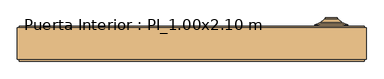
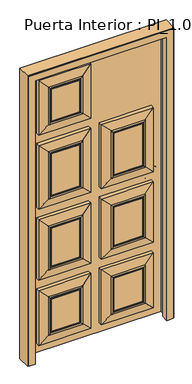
"""IFC4 building model written with IfcOpenShell, lengths in millimetres: door geometry, Puerta Interior : PI_1.00x2.10 m."""

from ifc_helpers import new_model, si_unit, point, frame, frame_2d, origin, place, context, project, spatial, polyline, circle_curve, ellipse_curve, trimmed, segment, composite_curve, outline, extrude, faceted_brep, source, transform, mapped, element, save
from ifc_brep_helpers import plane_surface, cylinder_surface, revolved_surface, advanced_brep


def puerta_interior_pi_1_00x2_10_m_59491bfe(model_context):
    return source(origin(), model_context, "Body", "SolidModel", [
        extrude(outline(composite_curve([segment(trimmed(circle_curve(frame_2d((1025.0174632, 400.28125)), 17.5), [point((1025.0174632, 382.78125))], [point((1025.0174632, 417.78125))], False, "CARTESIAN"), True, "CONTINUOUS"), segment(trimmed(circle_curve(frame_2d((1025.0174632, 400.28125)), 17.5), [point((1025.0174632, 417.78125))], [point((1025.0174632, 382.78125))], False, "CARTESIAN"), True, "CONTINUOUS")], self_intersect=False)), frame((0.0, 55.0, 0.0), z_axis=(0.0, 1.0, 0.0), x_axis=(0.0, 0.0, 1.0)), (0.0, 0.0, 1.0), 20.0),
        advanced_brep(
        [(447.78125, 55.0, 1025.0174632), (352.78125, 55.0, 1025.0174632), (352.78125, 50.0, 1025.0174632), (447.78125, 50.0, 1025.0174632), (431.78125, 60.0, 1025.0174632), (368.78125, 60.0, 1025.0174632), (419.9828812, 70.0, 1025.0174632), (380.5796188, 70.0, 1025.0174632), (418.1741787, 70.0, 1025.0174632), (382.3883213, 70.0, 1025.0174632), (418.1741787, 55.0, 1025.0174632), (382.3883213, 55.0, 1025.0174632), (400.28125, 55.0, 1025.0174632), (400.28125, 50.0, 1025.0174632)],
        [
            (0, 1, circle_curve(frame((400.28125, 55.0, 1025.0174632), z_axis=(0.0, -1.0, 0.0), x_axis=(-1.0, 0.0, 0.0)), 47.5)),
            (1, 2),
            (2, 3, circle_curve(frame((400.28125, 50.0, 1025.0174632), z_axis=(0.0, 1.0, 0.0), x_axis=(-1.0, 0.0, 0.0)), 47.5)),
            (3, 0),
            (1, 0, circle_curve(frame((400.28125, 55.0, 1025.0174632), z_axis=(0.0, -1.0, 0.0), x_axis=(-1.0, 0.0, 0.0)), 47.5)),
            (3, 2, circle_curve(frame((400.28125, 50.0, 1025.0174632), z_axis=(0.0, 1.0, 0.0), x_axis=(-1.0, 0.0, 0.0)), 47.5)),
            (4, 5, circle_curve(frame((400.28125, 60.0, 1025.0174632), z_axis=(0.0, -1.0, 0.0), x_axis=(-1.0, 0.0, 0.0)), 31.5)),
            (5, 1),
            (0, 4),
            (5, 4, circle_curve(frame((400.28125, 60.0, 1025.0174632), z_axis=(0.0, -1.0, 0.0), x_axis=(-1.0, 0.0, 0.0)), 31.5)),
            (6, 7, circle_curve(frame((400.28125, 70.0, 1025.0174632), z_axis=(0.0, -1.0, 0.0), x_axis=(-1.0, 0.0, 0.0)), 19.7016312)),
            (7, 5),
            (4, 6),
            (7, 6, circle_curve(frame((400.28125, 70.0, 1025.0174632), z_axis=(0.0, -1.0, 0.0), x_axis=(-1.0, 0.0, 0.0)), 19.7016312)),
            (8, 9, circle_curve(frame((400.28125, 70.0, 1025.0174632), z_axis=(0.0, -1.0, 0.0), x_axis=(-1.0, 0.0, 0.0)), 17.8929287)),
            (9, 7),
            (6, 8),
            (9, 8, circle_curve(frame((400.28125, 70.0, 1025.0174632), z_axis=(0.0, -1.0, 0.0), x_axis=(-1.0, 0.0, 0.0)), 17.8929287)),
            (10, 11, circle_curve(frame((400.28125, 55.0, 1025.0174632), z_axis=(0.0, -1.0, 0.0), x_axis=(-1.0, 0.0, 0.0)), 17.8929287)),
            (11, 9),
            (8, 10),
            (11, 10, circle_curve(frame((400.28125, 55.0, 1025.0174632), z_axis=(0.0, -1.0, 0.0), x_axis=(-1.0, 0.0, 0.0)), 17.8929287)),
            (12, 11),
            (10, 12),
            (2, 13),
            (13, 3),
        ],
        [
            cylinder_surface(frame((400.28125, 50.0, 1025.0174632), z_axis=(0.0, 1.0, 0.0), x_axis=(-1.0, 0.0, 0.0)), 47.5),
            revolved_surface(polyline([(352.78125, 55.0, 1025.0174632), (368.78125, 60.0, 1025.0174632)]), (400.28125, 50.0, 1025.0174632), (0.0, 1.0, 0.0)),
            revolved_surface(polyline([(368.78125, 60.0, 1025.0174632), (380.5796188, 70.0, 1025.0174632)]), (400.28125, 50.0, 1025.0174632), (0.0, 1.0, 0.0)),
            plane_surface(frame((400.28125, 70.0, 1025.0174632), z_axis=(0.0, 1.0, 0.0), x_axis=(-1.0, 0.0, 0.0))),
            revolved_surface(polyline([(382.38832130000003, 70.0, 1025.0174632), (382.38832130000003, 55.0, 1025.0174632)]), (400.28125, 50.0, 1025.0174632), (0.0, 1.0, 0.0)),
            plane_surface(frame((400.28125, 55.0, 1025.0174632), z_axis=(0.0, 1.0, 0.0), x_axis=(-1.0, 0.0, 0.0))),
            plane_surface(frame((400.28125, 50.0, 1025.0174632), z_axis=(0.0, -1.0, 0.0), x_axis=(-1.0, 0.0, 0.0))),
        ],
        [
            (0, [[1, 2, 3, 4]]),
            (0, [[5, -4, 6, -2]]),
            (1, [[7, 8, -1, 9]]),
            (1, [[10, -9, -5, -8]]),
            (2, [[11, 12, -7, 13]]),
            (2, [[14, -13, -10, -12]]),
            (3, [[15, 16, -11, 17]]),
            (3, [[18, -17, -14, -16]]),
            (4, [[19, 20, -15, 21]]),
            (4, [[22, -21, -18, -20]]),
            (5, [[23, -19, 24]]),
            (5, [[-24, -22, -23]]),
            (6, [[-3, 25, 26]]),
            (6, [[-6, -26, -25]]),
        ],
    ),
        faceted_brep([(500.0, 45.0, 0.0), (500.0, -45.0, 0.0), (495.0, -45.0, 0.0), (495.0, -50.0, 0.0), (450.0, -50.0, 0.0), (450.0, 0.0, 0.0), (467.0, 0.0, 0.0), (467.0, 50.0, 0.0), (495.0, 50.0, 0.0), (495.0, 45.0, 0.0), (500.0, 45.0, 2100.0), (500.0, -45.0, 2100.0), (-500.0, -45.0, 2100.0), (-500.0, -45.0, 0.0), (-495.0, -45.0, 0.0), (-495.0, -45.0, 2095.0), (495.0, -45.0, 2095.0), (495.0, -50.0, 2095.0), (-495.0, -50.0, 2095.0), (-495.0, -50.0, 0.0), (-450.0, -50.0, 0.0), (-450.0, -50.0, 2050.0), (450.0, -50.0, 2050.0), (450.0, 0.0, 2050.0), (-450.0, 0.0, 2050.0), (-450.0, 0.0, 0.0), (-467.0, 0.0, 0.0), (-467.0, 0.0, 2067.0), (467.0, 0.0, 2067.0), (467.0, 50.0, 2067.0), (-467.0, 50.0, 2067.0), (-467.0, 50.0, 1950.0), (-469.0, 50.0, 1950.0), (-469.0, 50.0, 1850.0), (-467.0, 50.0, 1850.0), (-467.0, 50.0, 1075.0174632), (-469.0, 50.0, 1075.0174632), (-469.0, 50.0, 975.0174632), (-467.0, 50.0, 975.0174632), (-467.0, 50.0, 200.0349265), (-469.0, 50.0, 200.0349265), (-469.0, 50.0, 100.0349265), (-467.0, 50.0, 100.0349265), (-467.0, 50.0, 0.0), (-495.0, 50.0, 0.0), (-495.0, 50.0, 2095.0), (495.0, 50.0, 2095.0), (495.0, 45.0, 2095.0), (-495.0, 45.0, 2095.0), (-495.0, 45.0, 0.0), (-500.0, 45.0, 0.0), (-500.0, 45.0, 2100.0), (-467.0, 7.5, 100.0349265), (-467.0, 7.5, 200.0349265), (-467.0, 7.5, 975.0174632), (-467.0, 7.5, 1075.0174632), (-467.0, 7.5, 1850.0), (-467.0, 7.5, 1950.0), (-469.0, 7.5, 100.0349265), (-469.0, 7.5, 200.0349265), (-469.0, 7.5, 975.0174632), (-469.0, 7.5, 1075.0174632), (-469.0, 7.5, 1950.0), (-469.0, 7.5, 1850.0)], [[[0, 1, 2, 3, 4, 5, 6, 7, 8, 9]], [[1, 0, 10, 11]], [[2, 1, 11, 12, 13, 14, 15, 16]], [[3, 2, 16, 17]], [[4, 3, 17, 18, 19, 20, 21, 22]], [[5, 4, 22, 23]], [[6, 5, 23, 24, 25, 26, 27, 28]], [[7, 6, 28, 29]], [[8, 7, 29, 30, 31, 32, 33, 34, 35, 36, 37, 38, 39, 40, 41, 42, 43, 44, 45, 46]], [[9, 8, 46, 47]], [[0, 9, 47, 48, 49, 50, 51, 10]], [[13, 50, 49, 44, 43, 26, 25, 20, 19, 14]], [[12, 51, 50, 13]], [[48, 45, 44, 49]], [[30, 27, 26, 43, 42, 52, 53, 39, 38, 54, 55, 35, 34, 56, 57, 31]], [[24, 21, 20, 25]], [[18, 15, 14, 19]], [[58, 52, 42, 41]], [[58, 59, 53, 52]], [[53, 59, 40, 39]], [[60, 54, 38, 37]], [[60, 61, 55, 54]], [[55, 61, 36, 35]], [[61, 60, 37, 36]], [[59, 58, 41, 40]], [[11, 10, 51, 12]], [[23, 22, 21, 24]], [[29, 28, 27, 30]], [[17, 16, 15, 18]], [[47, 46, 45, 48]], [[62, 63, 33, 32]], [[62, 32, 31, 57]], [[63, 62, 57, 56]], [[33, 63, 56, 34]]]),
        extrude(outline(polyline([(467.0, 48.203125), (-467.0, 48.203125), (-467.0, 50.0), (467.0, 50.0), (467.0, 48.203125)])), frame((0.0, 0.0, 2.5), z_axis=(0.0, 0.0, 1.0), x_axis=(1.0, 0.0, 0.0)), (0.0, 0.0, 1.0), 2064.5),
        advanced_brep(
        [(117.5, 0.0, 395.0087316), (117.5, 0.0, 157.5), (312.0, 0.0, 157.5), (312.0, 0.0, 395.0087316), (37.5, 35.0, 77.5), (37.5, 35.0, 475.0087316), (392.0, 35.0, 475.0087316), (392.0, 35.0, 77.5), (117.5, -5.0, 395.0087316), (117.5, -5.0, 157.5), (37.5, 10.0, 475.0087316), (37.5, 10.0, 77.5), (97.5, 0.0, 137.5), (97.5, 0.0, 415.0087316), (107.5, 0.0, 147.5), (107.5, 0.0, 405.0087316), (112.5, -5.0, 400.0087316), (112.5, 0.0, 400.0087316), (112.5, 0.0, 152.5), (112.5, -5.0, 152.5), (312.0, -5.0, 157.5), (392.0, 10.0, 77.5), (332.0, 0.0, 137.5), (322.0, 0.0, 147.5), (317.0, 0.0, 152.5), (317.0, -5.0, 152.5), (312.0, -5.0, 395.0087316), (392.0, 10.0, 475.0087316), (332.0, 0.0, 415.0087316), (322.0, 0.0, 405.0087316), (317.0, 0.0, 400.0087316), (317.0, -5.0, 400.0087316)],
        [
            (0, 1),
            (1, 2),
            (2, 3),
            (3, 0),
            (4, 5),
            (5, 6),
            (6, 7),
            (7, 4),
            (8, 9),
            (9, 1),
            (0, 8),
            (10, 5),
            (4, 11),
            (11, 10),
            (11, 12),
            (12, 13),
            (13, 10),
            (12, 14, ellipse_curve(frame((102.5, 0.0, 142.5), z_axis=(-0.7071067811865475, 0.0, 0.7071067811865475), x_axis=(0.7071067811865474, 0.0, 0.7071067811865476)), 7.0710678, 5.0)),
            (14, 15),
            (15, 13, ellipse_curve(frame((102.5, 0.0, 410.0087316), z_axis=(-0.7071067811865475, 0.0, -0.7071067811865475), x_axis=(-0.7071067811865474, 0.0, 0.7071067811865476)), 7.0710678, 5.0)),
            (16, 17),
            (17, 18),
            (18, 19),
            (19, 16),
            (9, 20),
            (20, 2),
            (7, 21),
            (21, 11),
            (21, 22),
            (22, 12),
            (22, 23, ellipse_curve(frame((327.0, 0.0, 142.5), z_axis=(-0.7071067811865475, 0.0, -0.7071067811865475), x_axis=(-0.7071067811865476, 0.0, 0.7071067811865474)), 7.0710678, 5.0)),
            (23, 14),
            (18, 24),
            (24, 25),
            (25, 19),
            (20, 26),
            (26, 3),
            (6, 27),
            (27, 21),
            (27, 28),
            (28, 22),
            (28, 29, ellipse_curve(frame((327.0, 0.0, 410.0087316), z_axis=(0.7071067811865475, 0.0, -0.7071067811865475), x_axis=(-0.7071067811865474, 0.0, -0.7071067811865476)), 7.0710678, 5.0)),
            (29, 23),
            (24, 30),
            (30, 31),
            (31, 25),
            (26, 8),
            (10, 27),
            (13, 28),
            (15, 29),
            (17, 30),
            (16, 31),
        ],
        [
            plane_surface(frame((117.5, 0.0, 395.0087316), z_axis=(0.0, -1.0, 0.0), x_axis=(0.0, 0.0, -1.0))),
            plane_surface(frame((117.5, 35.0, 395.0087316), z_axis=(0.0, 1.0, 0.0), x_axis=(0.0, 0.0, 1.0))),
            plane_surface(frame((117.5, -5.0, 395.0087316), z_axis=(1.0, 0.0, 0.0), x_axis=(0.0, 0.0, -1.0))),
            plane_surface(frame((37.5, 35.0, 475.0087316), z_axis=(-1.0, 0.0, 0.0), x_axis=(0.0, 0.0, -1.0))),
            plane_surface(frame((37.5, 10.0, 475.0087316), z_axis=(-0.1643989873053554, -0.9863939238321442, 0.0), x_axis=(0.0, 0.0, -1.0))),
            cylinder_surface(frame((102.5, 0.0, 475.0087316), z_axis=(0.0, 0.0, 1.0), x_axis=(0.0, 1.0, 0.0)), 5.0),
            plane_surface(frame((112.5, 0.0, 400.0087316), z_axis=(-1.0, 0.0, 0.0), x_axis=(0.0, 0.0, -1.0))),
            plane_surface(frame((117.5, -5.0, 157.5), z_axis=(0.0, 0.0, 1.0), x_axis=(1.0, 0.0, 0.0))),
            plane_surface(frame((37.5, 35.0, 77.5), z_axis=(0.0, 0.0, -1.0), x_axis=(1.0, 0.0, 0.0))),
            plane_surface(frame((37.5, 10.0, 77.5), z_axis=(0.0, -0.9863939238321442, -0.1643989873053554), x_axis=(1.0, 0.0, 0.0))),
            cylinder_surface(frame((37.5, 0.0, 142.5), z_axis=(-1.0, 0.0, 0.0), x_axis=(0.0, 1.0, 0.0)), 5.0),
            plane_surface(frame((112.5, 0.0, 152.5), z_axis=(0.0, 0.0, -1.0), x_axis=(1.0, 0.0, 0.0))),
            plane_surface(frame((312.0, -5.0, 157.5), z_axis=(-1.0, 0.0, 0.0), x_axis=(0.0, 0.0, 1.0))),
            plane_surface(frame((392.0, 35.0, 77.5), z_axis=(1.0, 0.0, 0.0), x_axis=(0.0, 0.0, 1.0))),
            plane_surface(frame((392.0, 10.0, 77.5), z_axis=(0.1643989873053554, -0.9863939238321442, 0.0), x_axis=(0.0, 0.0, 1.0))),
            cylinder_surface(frame((327.0, 0.0, 77.5), z_axis=(0.0, 0.0, -1.0), x_axis=(0.0, 1.0, 0.0)), 5.0),
            plane_surface(frame((317.0, 0.0, 152.5), z_axis=(1.0, 0.0, 0.0), x_axis=(0.0, 0.0, 1.0))),
            plane_surface(frame((312.0, -5.0, 395.0087316), z_axis=(0.0, 0.0, -1.0), x_axis=(-1.0, 0.0, 0.0))),
            plane_surface(frame((392.0, 35.0, 475.0087316), z_axis=(0.0, 0.0, 1.0), x_axis=(-1.0, 0.0, 0.0))),
            plane_surface(frame((392.0, 10.0, 475.0087316), z_axis=(0.0, -0.9863939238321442, 0.1643989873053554), x_axis=(-1.0, 0.0, 0.0))),
            cylinder_surface(frame((392.0, 0.0, 410.0087316), z_axis=(1.0, 0.0, 0.0), x_axis=(0.0, 1.0, 0.0)), 5.0),
            plane_surface(frame((322.0, 0.0, 405.0087316), z_axis=(0.0, -1.0, 0.0), x_axis=(-1.0, 0.0, 0.0))),
            plane_surface(frame((317.0, 0.0, 400.0087316), z_axis=(0.0, 0.0, 1.0), x_axis=(-1.0, 0.0, 0.0))),
            plane_surface(frame((317.0, -5.0, 400.0087316), z_axis=(0.0, -1.0, 0.0), x_axis=(-1.0, 0.0, 0.0))),
        ],
        [
            (0, [[1, 2, 3, 4]]),
            (1, [[5, 6, 7, 8]]),
            (2, [[9, 10, -1, 11]]),
            (3, [[12, -5, 13, 14]]),
            (4, [[-14, 15, 16, 17]]),
            (5, [[-16, 18, 19, 20]]),
            (6, [[21, 22, 23, 24]]),
            (7, [[25, 26, -2, -10]]),
            (8, [[-13, -8, 27, 28]]),
            (9, [[-15, -28, 29, 30]]),
            (10, [[-18, -30, 31, 32]]),
            (11, [[-23, 33, 34, 35]]),
            (12, [[36, 37, -3, -26]]),
            (13, [[-27, -7, 38, 39]]),
            (14, [[-29, -39, 40, 41]]),
            (15, [[-31, -41, 42, 43]]),
            (16, [[-34, 44, 45, 46]]),
            (17, [[47, -11, -4, -37]]),
            (18, [[-12, 48, -38, -6]]),
            (19, [[-17, 49, -40, -48]]),
            (20, [[-20, 50, -42, -49]]),
            (21, [[-19, -32, -43, -50], [-22, 51, -44, -33]]),
            (22, [[-21, 52, -45, -51]]),
            (23, [[-24, -35, -46, -52], [-9, -47, -36, -25]]),
        ],
    ),
        advanced_brep(
        [(-312.0, 0.0, 395.0087316), (-312.0, 0.0, 157.5), (-117.5, 0.0, 157.5), (-117.5, 0.0, 395.0087316), (-392.0, 35.0, 77.5), (-392.0, 35.0, 475.0087316), (-37.5, 35.0, 475.0087316), (-37.5, 35.0, 77.5), (-312.0, -5.0, 395.0087316), (-312.0, -5.0, 157.5), (-392.0, 10.0, 475.0087316), (-392.0, 10.0, 77.5), (-332.0, 0.0, 137.5), (-332.0, 0.0, 415.0087316), (-322.0, 0.0, 147.5), (-322.0, 0.0, 405.0087316), (-317.0, -5.0, 400.0087316), (-317.0, 0.0, 400.0087316), (-317.0, 0.0, 152.5), (-317.0, -5.0, 152.5), (-117.5, -5.0, 157.5), (-37.5, 10.0, 77.5), (-97.5, 0.0, 137.5), (-107.5, 0.0, 147.5), (-112.5, 0.0, 152.5), (-112.5, -5.0, 152.5), (-117.5, -5.0, 395.0087316), (-37.5, 10.0, 475.0087316), (-97.5, 0.0, 415.0087316), (-107.5, 0.0, 405.0087316), (-112.5, 0.0, 400.0087316), (-112.5, -5.0, 400.0087316)],
        [
            (0, 1),
            (1, 2),
            (2, 3),
            (3, 0),
            (4, 5),
            (5, 6),
            (6, 7),
            (7, 4),
            (8, 9),
            (9, 1),
            (0, 8),
            (10, 5),
            (4, 11),
            (11, 10),
            (11, 12),
            (12, 13),
            (13, 10),
            (12, 14, ellipse_curve(frame((-327.0, 0.0, 142.5), z_axis=(-0.7071067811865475, 0.0, 0.7071067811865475), x_axis=(0.7071067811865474, 0.0, 0.7071067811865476)), 7.0710678, 5.0)),
            (14, 15),
            (15, 13, ellipse_curve(frame((-327.0, 0.0, 410.0087316), z_axis=(-0.7071067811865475, 0.0, -0.7071067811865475), x_axis=(-0.7071067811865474, 0.0, 0.7071067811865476)), 7.0710678, 5.0)),
            (16, 17),
            (17, 18),
            (18, 19),
            (19, 16),
            (9, 20),
            (20, 2),
            (7, 21),
            (21, 11),
            (21, 22),
            (22, 12),
            (22, 23, ellipse_curve(frame((-102.5, 0.0, 142.5), z_axis=(-0.7071067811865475, 0.0, -0.7071067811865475), x_axis=(-0.7071067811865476, 0.0, 0.7071067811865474)), 7.0710678, 5.0)),
            (23, 14),
            (18, 24),
            (24, 25),
            (25, 19),
            (20, 26),
            (26, 3),
            (6, 27),
            (27, 21),
            (27, 28),
            (28, 22),
            (28, 29, ellipse_curve(frame((-102.5, 0.0, 410.0087316), z_axis=(0.7071067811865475, 0.0, -0.7071067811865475), x_axis=(-0.7071067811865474, 0.0, -0.7071067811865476)), 7.0710678, 5.0)),
            (29, 23),
            (24, 30),
            (30, 31),
            (31, 25),
            (26, 8),
            (10, 27),
            (13, 28),
            (15, 29),
            (17, 30),
            (16, 31),
        ],
        [
            plane_surface(frame((-312.0, 0.0, 395.0087316), z_axis=(0.0, -1.0, 0.0), x_axis=(0.0, 0.0, -1.0))),
            plane_surface(frame((-312.0, 35.0, 395.0087316), z_axis=(0.0, 1.0, 0.0), x_axis=(0.0, 0.0, 1.0))),
            plane_surface(frame((-312.0, -5.0, 395.0087316), z_axis=(1.0, 0.0, 0.0), x_axis=(0.0, 0.0, -1.0))),
            plane_surface(frame((-392.0, 35.0, 475.0087316), z_axis=(-1.0, 0.0, 0.0), x_axis=(0.0, 0.0, -1.0))),
            plane_surface(frame((-392.0, 10.0, 475.0087316), z_axis=(-0.1643989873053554, -0.9863939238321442, 0.0), x_axis=(0.0, 0.0, -1.0))),
            cylinder_surface(frame((-327.0, 0.0, 475.0087316), z_axis=(0.0, 0.0, 1.0), x_axis=(0.0, 1.0, 0.0)), 5.0),
            plane_surface(frame((-317.0, 0.0, 400.0087316), z_axis=(-1.0, 0.0, 0.0), x_axis=(0.0, 0.0, -1.0))),
            plane_surface(frame((-312.0, -5.0, 157.5), z_axis=(0.0, 0.0, 1.0), x_axis=(1.0, 0.0, 0.0))),
            plane_surface(frame((-392.0, 35.0, 77.5), z_axis=(0.0, 0.0, -1.0), x_axis=(1.0, 0.0, 0.0))),
            plane_surface(frame((-392.0, 10.0, 77.5), z_axis=(0.0, -0.9863939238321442, -0.1643989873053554), x_axis=(1.0, 0.0, 0.0))),
            cylinder_surface(frame((-392.0, 0.0, 142.5), z_axis=(-1.0, 0.0, 0.0), x_axis=(0.0, 1.0, 0.0)), 5.0),
            plane_surface(frame((-317.0, 0.0, 152.5), z_axis=(0.0, 0.0, -1.0), x_axis=(1.0, 0.0, 0.0))),
            plane_surface(frame((-117.5, -5.0, 157.5), z_axis=(-1.0, 0.0, 0.0), x_axis=(0.0, 0.0, 1.0))),
            plane_surface(frame((-37.5, 35.0, 77.5), z_axis=(1.0, 0.0, 0.0), x_axis=(0.0, 0.0, 1.0))),
            plane_surface(frame((-37.5, 10.0, 77.5), z_axis=(0.1643989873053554, -0.9863939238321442, 0.0), x_axis=(0.0, 0.0, 1.0))),
            cylinder_surface(frame((-102.5, 0.0, 77.5), z_axis=(0.0, 0.0, -1.0), x_axis=(0.0, 1.0, 0.0)), 5.0),
            plane_surface(frame((-112.5, 0.0, 152.5), z_axis=(1.0, 0.0, 0.0), x_axis=(0.0, 0.0, 1.0))),
            plane_surface(frame((-117.5, -5.0, 395.0087316), z_axis=(0.0, 0.0, -1.0), x_axis=(-1.0, 0.0, 0.0))),
            plane_surface(frame((-37.5, 35.0, 475.0087316), z_axis=(0.0, 0.0, 1.0), x_axis=(-1.0, 0.0, 0.0))),
            plane_surface(frame((-37.5, 10.0, 475.0087316), z_axis=(0.0, -0.9863939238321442, 0.1643989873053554), x_axis=(-1.0, 0.0, 0.0))),
            cylinder_surface(frame((-37.5, 0.0, 410.0087316), z_axis=(1.0, 0.0, 0.0), x_axis=(0.0, 1.0, 0.0)), 5.0),
            plane_surface(frame((-107.5, 0.0, 405.0087316), z_axis=(0.0, -1.0, 0.0), x_axis=(-1.0, 0.0, 0.0))),
            plane_surface(frame((-112.5, 0.0, 400.0087316), z_axis=(0.0, 0.0, 1.0), x_axis=(-1.0, 0.0, 0.0))),
            plane_surface(frame((-112.5, -5.0, 400.0087316), z_axis=(0.0, -1.0, 0.0), x_axis=(-1.0, 0.0, 0.0))),
        ],
        [
            (0, [[1, 2, 3, 4]]),
            (1, [[5, 6, 7, 8]]),
            (2, [[9, 10, -1, 11]]),
            (3, [[12, -5, 13, 14]]),
            (4, [[-14, 15, 16, 17]]),
            (5, [[-16, 18, 19, 20]]),
            (6, [[21, 22, 23, 24]]),
            (7, [[25, 26, -2, -10]]),
            (8, [[-13, -8, 27, 28]]),
            (9, [[-15, -28, 29, 30]]),
            (10, [[-18, -30, 31, 32]]),
            (11, [[-23, 33, 34, 35]]),
            (12, [[36, 37, -3, -26]]),
            (13, [[-27, -7, 38, 39]]),
            (14, [[-29, -39, 40, 41]]),
            (15, [[-31, -41, 42, 43]]),
            (16, [[-34, 44, 45, 46]]),
            (17, [[47, -11, -4, -37]]),
            (18, [[-12, 48, -38, -6]]),
            (19, [[-17, 49, -40, -48]]),
            (20, [[-20, 50, -42, -49]]),
            (21, [[-19, -32, -43, -50], [-22, 51, -44, -33]]),
            (22, [[-21, 52, -45, -51]]),
            (23, [[-24, -35, -46, -52], [-9, -47, -36, -25]]),
        ],
    ),
        advanced_brep(
        [(-312.0, 0.0, 907.5174632), (-312.0, 0.0, 630.0087316), (-117.5, 0.0, 630.0087316), (-117.5, 0.0, 907.5174632), (-392.0, 35.0, 550.0087316), (-392.0, 35.0, 987.5174632), (-37.5, 35.0, 987.5174632), (-37.5, 35.0, 550.0087316), (-312.0, -5.0, 907.5174632), (-312.0, -5.0, 630.0087316), (-392.0, 10.0, 987.5174632), (-392.0, 10.0, 550.0087316), (-332.0, 0.0, 610.0087316), (-332.0, 0.0, 927.5174632), (-322.0, 0.0, 620.0087316), (-322.0, 0.0, 917.5174632), (-317.0, -5.0, 912.5174632), (-317.0, 0.0, 912.5174632), (-317.0, 0.0, 625.0087316), (-317.0, -5.0, 625.0087316), (-117.5, -5.0, 630.0087316), (-37.5, 10.0, 550.0087316), (-97.5, 0.0, 610.0087316), (-107.5, 0.0, 620.0087316), (-112.5, 0.0, 625.0087316), (-112.5, -5.0, 625.0087316), (-117.5, -5.0, 907.5174632), (-37.5, 10.0, 987.5174632), (-97.5, 0.0, 927.5174632), (-107.5, 0.0, 917.5174632), (-112.5, 0.0, 912.5174632), (-112.5, -5.0, 912.5174632)],
        [
            (0, 1),
            (1, 2),
            (2, 3),
            (3, 0),
            (4, 5),
            (5, 6),
            (6, 7),
            (7, 4),
            (8, 9),
            (9, 1),
            (0, 8),
            (10, 5),
            (4, 11),
            (11, 10),
            (11, 12),
            (12, 13),
            (13, 10),
            (12, 14, ellipse_curve(frame((-327.0, 0.0, 615.0087316), z_axis=(-0.7071067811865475, 0.0, 0.7071067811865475), x_axis=(0.7071067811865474, 0.0, 0.7071067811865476)), 7.0710678, 5.0)),
            (14, 15),
            (15, 13, ellipse_curve(frame((-327.0, 0.0, 922.5174632), z_axis=(-0.7071067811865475, 0.0, -0.7071067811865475), x_axis=(-0.7071067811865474, 0.0, 0.7071067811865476)), 7.0710678, 5.0)),
            (16, 17),
            (17, 18),
            (18, 19),
            (19, 16),
            (9, 20),
            (20, 2),
            (7, 21),
            (21, 11),
            (21, 22),
            (22, 12),
            (22, 23, ellipse_curve(frame((-102.5, 0.0, 615.0087316), z_axis=(-0.7071067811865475, 0.0, -0.7071067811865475), x_axis=(-0.7071067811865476, 0.0, 0.7071067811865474)), 7.0710678, 5.0)),
            (23, 14),
            (18, 24),
            (24, 25),
            (25, 19),
            (20, 26),
            (26, 3),
            (6, 27),
            (27, 21),
            (27, 28),
            (28, 22),
            (28, 29, ellipse_curve(frame((-102.5, 0.0, 922.5174632), z_axis=(0.7071067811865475, 0.0, -0.7071067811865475), x_axis=(-0.7071067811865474, 0.0, -0.7071067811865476)), 7.0710678, 5.0)),
            (29, 23),
            (24, 30),
            (30, 31),
            (31, 25),
            (26, 8),
            (10, 27),
            (13, 28),
            (15, 29),
            (17, 30),
            (16, 31),
        ],
        [
            plane_surface(frame((-312.0, 0.0, 907.5174632), z_axis=(0.0, -1.0, 0.0), x_axis=(0.0, 0.0, -1.0))),
            plane_surface(frame((-312.0, 35.0, 907.5174632), z_axis=(0.0, 1.0, 0.0), x_axis=(0.0, 0.0, 1.0))),
            plane_surface(frame((-312.0, -5.0, 907.5174632), z_axis=(1.0, 0.0, 0.0), x_axis=(0.0, 0.0, -1.0))),
            plane_surface(frame((-392.0, 35.0, 987.5174632), z_axis=(-1.0, 0.0, 0.0), x_axis=(0.0, 0.0, -1.0))),
            plane_surface(frame((-392.0, 10.0, 987.5174632), z_axis=(-0.1643989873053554, -0.9863939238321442, 0.0), x_axis=(0.0, 0.0, -1.0))),
            cylinder_surface(frame((-327.0, 0.0, 987.5174632), z_axis=(0.0, 0.0, 1.0), x_axis=(0.0, 1.0, 0.0)), 5.0),
            plane_surface(frame((-317.0, 0.0, 912.5174632), z_axis=(-1.0, 0.0, 0.0), x_axis=(0.0, 0.0, -1.0))),
            plane_surface(frame((-312.0, -5.0, 630.0087316), z_axis=(0.0, 0.0, 1.0), x_axis=(1.0, 0.0, 0.0))),
            plane_surface(frame((-392.0, 35.0, 550.0087316), z_axis=(0.0, 0.0, -1.0), x_axis=(1.0, 0.0, 0.0))),
            plane_surface(frame((-392.0, 10.0, 550.0087316), z_axis=(0.0, -0.9863939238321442, -0.1643989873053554), x_axis=(1.0, 0.0, 0.0))),
            cylinder_surface(frame((-392.0, 0.0, 615.0087316), z_axis=(-1.0, 0.0, 0.0), x_axis=(0.0, 1.0, 0.0)), 5.0),
            plane_surface(frame((-317.0, 0.0, 625.0087316), z_axis=(0.0, 0.0, -1.0), x_axis=(1.0, 0.0, 0.0))),
            plane_surface(frame((-117.5, -5.0, 630.0087316), z_axis=(-1.0, 0.0, 0.0), x_axis=(0.0, 0.0, 1.0))),
            plane_surface(frame((-37.5, 35.0, 550.0087316), z_axis=(1.0, 0.0, 0.0), x_axis=(0.0, 0.0, 1.0))),
            plane_surface(frame((-37.5, 10.0, 550.0087316), z_axis=(0.1643989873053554, -0.9863939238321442, 0.0), x_axis=(0.0, 0.0, 1.0))),
            cylinder_surface(frame((-102.5, 0.0, 550.0087316), z_axis=(0.0, 0.0, -1.0), x_axis=(0.0, 1.0, 0.0)), 5.0),
            plane_surface(frame((-112.5, 0.0, 625.0087316), z_axis=(1.0, 0.0, 0.0), x_axis=(0.0, 0.0, 1.0))),
            plane_surface(frame((-117.5, -5.0, 907.5174632), z_axis=(0.0, 0.0, -1.0), x_axis=(-1.0, 0.0, 0.0))),
            plane_surface(frame((-37.5, 35.0, 987.5174632), z_axis=(0.0, 0.0, 1.0), x_axis=(-1.0, 0.0, 0.0))),
            plane_surface(frame((-37.5, 10.0, 987.5174632), z_axis=(0.0, -0.9863939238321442, 0.1643989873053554), x_axis=(-1.0, 0.0, 0.0))),
            cylinder_surface(frame((-37.5, 0.0, 922.5174632), z_axis=(1.0, 0.0, 0.0), x_axis=(0.0, 1.0, 0.0)), 5.0),
            plane_surface(frame((-107.5, 0.0, 917.5174632), z_axis=(0.0, -1.0, 0.0), x_axis=(-1.0, 0.0, 0.0))),
            plane_surface(frame((-112.5, 0.0, 912.5174632), z_axis=(0.0, 0.0, 1.0), x_axis=(-1.0, 0.0, 0.0))),
            plane_surface(frame((-112.5, -5.0, 912.5174632), z_axis=(0.0, -1.0, 0.0), x_axis=(-1.0, 0.0, 0.0))),
        ],
        [
            (0, [[1, 2, 3, 4]]),
            (1, [[5, 6, 7, 8]]),
            (2, [[9, 10, -1, 11]]),
            (3, [[12, -5, 13, 14]]),
            (4, [[-14, 15, 16, 17]]),
            (5, [[-16, 18, 19, 20]]),
            (6, [[21, 22, 23, 24]]),
            (7, [[25, 26, -2, -10]]),
            (8, [[-13, -8, 27, 28]]),
            (9, [[-15, -28, 29, 30]]),
            (10, [[-18, -30, 31, 32]]),
            (11, [[-23, 33, 34, 35]]),
            (12, [[36, 37, -3, -26]]),
            (13, [[-27, -7, 38, 39]]),
            (14, [[-29, -39, 40, 41]]),
            (15, [[-31, -41, 42, 43]]),
            (16, [[-34, 44, 45, 46]]),
            (17, [[47, -11, -4, -37]]),
            (18, [[-12, 48, -38, -6]]),
            (19, [[-17, 49, -40, -48]]),
            (20, [[-20, 50, -42, -49]]),
            (21, [[-19, -32, -43, -50], [-22, 51, -44, -33]]),
            (22, [[-21, 52, -45, -51]]),
            (23, [[-24, -35, -46, -52], [-9, -47, -36, -25]]),
        ],
    ),
        advanced_brep(
        [(117.5, 0.0, 907.5174632), (117.5, 0.0, 630.0087316), (312.0, 0.0, 630.0087316), (312.0, 0.0, 907.5174632), (37.5, 35.0, 550.0087316), (37.5, 35.0, 987.5174632), (392.0, 35.0, 987.5174632), (392.0, 35.0, 550.0087316), (117.5, -5.0, 907.5174632), (117.5, -5.0, 630.0087316), (37.5, 10.0, 987.5174632), (37.5, 10.0, 550.0087316), (97.5, 0.0, 610.0087316), (97.5, 0.0, 927.5174632), (107.5, 0.0, 620.0087316), (107.5, 0.0, 917.5174632), (112.5, -5.0, 912.5174632), (112.5, 0.0, 912.5174632), (112.5, 0.0, 625.0087316), (112.5, -5.0, 625.0087316), (312.0, -5.0, 630.0087316), (392.0, 10.0, 550.0087316), (332.0, 0.0, 610.0087316), (322.0, 0.0, 620.0087316), (317.0, 0.0, 625.0087316), (317.0, -5.0, 625.0087316), (312.0, -5.0, 907.5174632), (392.0, 10.0, 987.5174632), (332.0, 0.0, 927.5174632), (322.0, 0.0, 917.5174632), (317.0, 0.0, 912.5174632), (317.0, -5.0, 912.5174632)],
        [
            (0, 1),
            (1, 2),
            (2, 3),
            (3, 0),
            (4, 5),
            (5, 6),
            (6, 7),
            (7, 4),
            (8, 9),
            (9, 1),
            (0, 8),
            (10, 5),
            (4, 11),
            (11, 10),
            (11, 12),
            (12, 13),
            (13, 10),
            (12, 14, ellipse_curve(frame((102.5, 0.0, 615.0087316), z_axis=(-0.7071067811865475, 0.0, 0.7071067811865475), x_axis=(0.7071067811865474, 0.0, 0.7071067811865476)), 7.0710678, 5.0)),
            (14, 15),
            (15, 13, ellipse_curve(frame((102.5, 0.0, 922.5174632), z_axis=(-0.7071067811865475, 0.0, -0.7071067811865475), x_axis=(-0.7071067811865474, 0.0, 0.7071067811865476)), 7.0710678, 5.0)),
            (16, 17),
            (17, 18),
            (18, 19),
            (19, 16),
            (9, 20),
            (20, 2),
            (7, 21),
            (21, 11),
            (21, 22),
            (22, 12),
            (22, 23, ellipse_curve(frame((327.0, 0.0, 615.0087316), z_axis=(-0.7071067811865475, 0.0, -0.7071067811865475), x_axis=(-0.7071067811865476, 0.0, 0.7071067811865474)), 7.0710678, 5.0)),
            (23, 14),
            (18, 24),
            (24, 25),
            (25, 19),
            (20, 26),
            (26, 3),
            (6, 27),
            (27, 21),
            (27, 28),
            (28, 22),
            (28, 29, ellipse_curve(frame((327.0, 0.0, 922.5174632), z_axis=(0.7071067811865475, 0.0, -0.7071067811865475), x_axis=(-0.7071067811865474, 0.0, -0.7071067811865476)), 7.0710678, 5.0)),
            (29, 23),
            (24, 30),
            (30, 31),
            (31, 25),
            (26, 8),
            (10, 27),
            (13, 28),
            (15, 29),
            (17, 30),
            (16, 31),
        ],
        [
            plane_surface(frame((117.5, 0.0, 907.5174632), z_axis=(0.0, -1.0, 0.0), x_axis=(0.0, 0.0, -1.0))),
            plane_surface(frame((117.5, 35.0, 907.5174632), z_axis=(0.0, 1.0, 0.0), x_axis=(0.0, 0.0, 1.0))),
            plane_surface(frame((117.5, -5.0, 907.5174632), z_axis=(1.0, 0.0, 0.0), x_axis=(0.0, 0.0, -1.0))),
            plane_surface(frame((37.5, 35.0, 987.5174632), z_axis=(-1.0, 0.0, 0.0), x_axis=(0.0, 0.0, -1.0))),
            plane_surface(frame((37.5, 10.0, 987.5174632), z_axis=(-0.1643989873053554, -0.9863939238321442, 0.0), x_axis=(0.0, 0.0, -1.0))),
            cylinder_surface(frame((102.5, 0.0, 987.5174632), z_axis=(0.0, 0.0, 1.0), x_axis=(0.0, 1.0, 0.0)), 5.0),
            plane_surface(frame((112.5, 0.0, 912.5174632), z_axis=(-1.0, 0.0, 0.0), x_axis=(0.0, 0.0, -1.0))),
            plane_surface(frame((117.5, -5.0, 630.0087316), z_axis=(0.0, 0.0, 1.0), x_axis=(1.0, 0.0, 0.0))),
            plane_surface(frame((37.5, 35.0, 550.0087316), z_axis=(0.0, 0.0, -1.0), x_axis=(1.0, 0.0, 0.0))),
            plane_surface(frame((37.5, 10.0, 550.0087316), z_axis=(0.0, -0.9863939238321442, -0.1643989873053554), x_axis=(1.0, 0.0, 0.0))),
            cylinder_surface(frame((37.5, 0.0, 615.0087316), z_axis=(-1.0, 0.0, 0.0), x_axis=(0.0, 1.0, 0.0)), 5.0),
            plane_surface(frame((112.5, 0.0, 625.0087316), z_axis=(0.0, 0.0, -1.0), x_axis=(1.0, 0.0, 0.0))),
            plane_surface(frame((312.0, -5.0, 630.0087316), z_axis=(-1.0, 0.0, 0.0), x_axis=(0.0, 0.0, 1.0))),
            plane_surface(frame((392.0, 35.0, 550.0087316), z_axis=(1.0, 0.0, 0.0), x_axis=(0.0, 0.0, 1.0))),
            plane_surface(frame((392.0, 10.0, 550.0087316), z_axis=(0.1643989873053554, -0.9863939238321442, 0.0), x_axis=(0.0, 0.0, 1.0))),
            cylinder_surface(frame((327.0, 0.0, 550.0087316), z_axis=(0.0, 0.0, -1.0), x_axis=(0.0, 1.0, 0.0)), 5.0),
            plane_surface(frame((317.0, 0.0, 625.0087316), z_axis=(1.0, 0.0, 0.0), x_axis=(0.0, 0.0, 1.0))),
            plane_surface(frame((312.0, -5.0, 907.5174632), z_axis=(0.0, 0.0, -1.0), x_axis=(-1.0, 0.0, 0.0))),
            plane_surface(frame((392.0, 35.0, 987.5174632), z_axis=(0.0, 0.0, 1.0), x_axis=(-1.0, 0.0, 0.0))),
            plane_surface(frame((392.0, 10.0, 987.5174632), z_axis=(0.0, -0.9863939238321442, 0.1643989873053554), x_axis=(-1.0, 0.0, 0.0))),
            cylinder_surface(frame((392.0, 0.0, 922.5174632), z_axis=(1.0, 0.0, 0.0), x_axis=(0.0, 1.0, 0.0)), 5.0),
            plane_surface(frame((322.0, 0.0, 917.5174632), z_axis=(0.0, -1.0, 0.0), x_axis=(-1.0, 0.0, 0.0))),
            plane_surface(frame((317.0, 0.0, 912.5174632), z_axis=(0.0, 0.0, 1.0), x_axis=(-1.0, 0.0, 0.0))),
            plane_surface(frame((317.0, -5.0, 912.5174632), z_axis=(0.0, -1.0, 0.0), x_axis=(-1.0, 0.0, 0.0))),
        ],
        [
            (0, [[1, 2, 3, 4]]),
            (1, [[5, 6, 7, 8]]),
            (2, [[9, 10, -1, 11]]),
            (3, [[12, -5, 13, 14]]),
            (4, [[-14, 15, 16, 17]]),
            (5, [[-16, 18, 19, 20]]),
            (6, [[21, 22, 23, 24]]),
            (7, [[25, 26, -2, -10]]),
            (8, [[-13, -8, 27, 28]]),
            (9, [[-15, -28, 29, 30]]),
            (10, [[-18, -30, 31, 32]]),
            (11, [[-23, 33, 34, 35]]),
            (12, [[36, 37, -3, -26]]),
            (13, [[-27, -7, 38, 39]]),
            (14, [[-29, -39, 40, 41]]),
            (15, [[-31, -41, 42, 43]]),
            (16, [[-34, 44, 45, 46]]),
            (17, [[47, -11, -4, -37]]),
            (18, [[-12, 48, -38, -6]]),
            (19, [[-17, 49, -40, -48]]),
            (20, [[-20, 50, -42, -49]]),
            (21, [[-19, -32, -43, -50], [-22, 51, -44, -33]]),
            (22, [[-21, 52, -45, -51]]),
            (23, [[-24, -35, -46, -52], [-9, -47, -36, -25]]),
        ],
    ),
        advanced_brep(
        [(117.5, 0.0, 1445.0087316), (117.5, 0.0, 1142.5174632), (312.0, 0.0, 1142.5174632), (312.0, 0.0, 1445.0087316), (37.5, 35.0, 1062.5174632), (37.5, 35.0, 1525.0087316), (392.0, 35.0, 1525.0087316), (392.0, 35.0, 1062.5174632), (117.5, -5.0, 1445.0087316), (117.5, -5.0, 1142.5174632), (37.5, 10.0, 1525.0087316), (37.5, 10.0, 1062.5174632), (97.5, 0.0, 1122.5174632), (97.5, 0.0, 1465.0087316), (107.5, 0.0, 1132.5174632), (107.5, 0.0, 1455.0087316), (112.5, -5.0, 1450.0087316), (112.5, 0.0, 1450.0087316), (112.5, 0.0, 1137.5174632), (112.5, -5.0, 1137.5174632), (312.0, -5.0, 1142.5174632), (392.0, 10.0, 1062.5174632), (332.0, 0.0, 1122.5174632), (322.0, 0.0, 1132.5174632), (317.0, 0.0, 1137.5174632), (317.0, -5.0, 1137.5174632), (312.0, -5.0, 1445.0087316), (392.0, 10.0, 1525.0087316), (332.0, 0.0, 1465.0087316), (322.0, 0.0, 1455.0087316), (317.0, 0.0, 1450.0087316), (317.0, -5.0, 1450.0087316)],
        [
            (0, 1),
            (1, 2),
            (2, 3),
            (3, 0),
            (4, 5),
            (5, 6),
            (6, 7),
            (7, 4),
            (8, 9),
            (9, 1),
            (0, 8),
            (10, 5),
            (4, 11),
            (11, 10),
            (11, 12),
            (12, 13),
            (13, 10),
            (12, 14, ellipse_curve(frame((102.5, 0.0, 1127.5174632), z_axis=(-0.7071067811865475, 0.0, 0.7071067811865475), x_axis=(0.7071067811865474, 0.0, 0.7071067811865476)), 7.0710678, 5.0)),
            (14, 15),
            (15, 13, ellipse_curve(frame((102.5, 0.0, 1460.0087316), z_axis=(-0.7071067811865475, 0.0, -0.7071067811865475), x_axis=(-0.7071067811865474, 0.0, 0.7071067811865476)), 7.0710678, 5.0)),
            (16, 17),
            (17, 18),
            (18, 19),
            (19, 16),
            (9, 20),
            (20, 2),
            (7, 21),
            (21, 11),
            (21, 22),
            (22, 12),
            (22, 23, ellipse_curve(frame((327.0, 0.0, 1127.5174632), z_axis=(-0.7071067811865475, 0.0, -0.7071067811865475), x_axis=(-0.7071067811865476, 0.0, 0.7071067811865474)), 7.0710678, 5.0)),
            (23, 14),
            (18, 24),
            (24, 25),
            (25, 19),
            (20, 26),
            (26, 3),
            (6, 27),
            (27, 21),
            (27, 28),
            (28, 22),
            (28, 29, ellipse_curve(frame((327.0, 0.0, 1460.0087316), z_axis=(0.7071067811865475, 0.0, -0.7071067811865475), x_axis=(-0.7071067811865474, 0.0, -0.7071067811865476)), 7.0710678, 5.0)),
            (29, 23),
            (24, 30),
            (30, 31),
            (31, 25),
            (26, 8),
            (10, 27),
            (13, 28),
            (15, 29),
            (17, 30),
            (16, 31),
        ],
        [
            plane_surface(frame((117.5, 0.0, 1445.0087316), z_axis=(0.0, -1.0, 0.0), x_axis=(0.0, 0.0, -1.0))),
            plane_surface(frame((117.5, 35.0, 1445.0087316), z_axis=(0.0, 1.0, 0.0), x_axis=(0.0, 0.0, 1.0))),
            plane_surface(frame((117.5, -5.0, 1445.0087316), z_axis=(1.0, 0.0, 0.0), x_axis=(0.0, 0.0, -1.0))),
            plane_surface(frame((37.5, 35.0, 1525.0087316), z_axis=(-1.0, 0.0, 0.0), x_axis=(0.0, 0.0, -1.0))),
            plane_surface(frame((37.5, 10.0, 1525.0087316), z_axis=(-0.1643989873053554, -0.9863939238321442, 0.0), x_axis=(0.0, 0.0, -1.0))),
            cylinder_surface(frame((102.5, 0.0, 1525.0087316), z_axis=(0.0, 0.0, 1.0), x_axis=(0.0, 1.0, 0.0)), 5.0),
            plane_surface(frame((112.5, 0.0, 1450.0087316), z_axis=(-1.0, 0.0, 0.0), x_axis=(0.0, 0.0, -1.0))),
            plane_surface(frame((117.5, -5.0, 1142.5174632), z_axis=(0.0, 0.0, 1.0), x_axis=(1.0, 0.0, 0.0))),
            plane_surface(frame((37.5, 35.0, 1062.5174632), z_axis=(0.0, 0.0, -1.0), x_axis=(1.0, 0.0, 0.0))),
            plane_surface(frame((37.5, 10.0, 1062.5174632), z_axis=(0.0, -0.9863939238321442, -0.1643989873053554), x_axis=(1.0, 0.0, 0.0))),
            cylinder_surface(frame((37.5, 0.0, 1127.5174632), z_axis=(-1.0, 0.0, 0.0), x_axis=(0.0, 1.0, 0.0)), 5.0),
            plane_surface(frame((112.5, 0.0, 1137.5174632), z_axis=(0.0, 0.0, -1.0), x_axis=(1.0, 0.0, 0.0))),
            plane_surface(frame((312.0, -5.0, 1142.5174632), z_axis=(-1.0, 0.0, 0.0), x_axis=(0.0, 0.0, 1.0))),
            plane_surface(frame((392.0, 35.0, 1062.5174632), z_axis=(1.0, 0.0, 0.0), x_axis=(0.0, 0.0, 1.0))),
            plane_surface(frame((392.0, 10.0, 1062.5174632), z_axis=(0.1643989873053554, -0.9863939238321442, 0.0), x_axis=(0.0, 0.0, 1.0))),
            cylinder_surface(frame((327.0, 0.0, 1062.5174632), z_axis=(0.0, 0.0, -1.0), x_axis=(0.0, 1.0, 0.0)), 5.0),
            plane_surface(frame((317.0, 0.0, 1137.5174632), z_axis=(1.0, 0.0, 0.0), x_axis=(0.0, 0.0, 1.0))),
            plane_surface(frame((312.0, -5.0, 1445.0087316), z_axis=(0.0, 0.0, -1.0), x_axis=(-1.0, 0.0, 0.0))),
            plane_surface(frame((392.0, 35.0, 1525.0087316), z_axis=(0.0, 0.0, 1.0), x_axis=(-1.0, 0.0, 0.0))),
            plane_surface(frame((392.0, 10.0, 1525.0087316), z_axis=(0.0, -0.9863939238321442, 0.1643989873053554), x_axis=(-1.0, 0.0, 0.0))),
            cylinder_surface(frame((392.0, 0.0, 1460.0087316), z_axis=(1.0, 0.0, 0.0), x_axis=(0.0, 1.0, 0.0)), 5.0),
            plane_surface(frame((322.0, 0.0, 1455.0087316), z_axis=(0.0, -1.0, 0.0), x_axis=(-1.0, 0.0, 0.0))),
            plane_surface(frame((317.0, 0.0, 1450.0087316), z_axis=(0.0, 0.0, 1.0), x_axis=(-1.0, 0.0, 0.0))),
            plane_surface(frame((317.0, -5.0, 1450.0087316), z_axis=(0.0, -1.0, 0.0), x_axis=(-1.0, 0.0, 0.0))),
        ],
        [
            (0, [[1, 2, 3, 4]]),
            (1, [[5, 6, 7, 8]]),
            (2, [[9, 10, -1, 11]]),
            (3, [[12, -5, 13, 14]]),
            (4, [[-14, 15, 16, 17]]),
            (5, [[-16, 18, 19, 20]]),
            (6, [[21, 22, 23, 24]]),
            (7, [[25, 26, -2, -10]]),
            (8, [[-13, -8, 27, 28]]),
            (9, [[-15, -28, 29, 30]]),
            (10, [[-18, -30, 31, 32]]),
            (11, [[-23, 33, 34, 35]]),
            (12, [[36, 37, -3, -26]]),
            (13, [[-27, -7, 38, 39]]),
            (14, [[-29, -39, 40, 41]]),
            (15, [[-31, -41, 42, 43]]),
            (16, [[-34, 44, 45, 46]]),
            (17, [[47, -11, -4, -37]]),
            (18, [[-12, 48, -38, -6]]),
            (19, [[-17, 49, -40, -48]]),
            (20, [[-20, 50, -42, -49]]),
            (21, [[-19, -32, -43, -50], [-22, 51, -44, -33]]),
            (22, [[-21, 52, -45, -51]]),
            (23, [[-24, -35, -46, -52], [-9, -47, -36, -25]]),
        ],
    ),
        advanced_brep(
        [(-312.0, 0.0, 1445.0087316), (-312.0, 0.0, 1142.5174632), (-117.5, 0.0, 1142.5174632), (-117.5, 0.0, 1445.0087316), (-392.0, 35.0, 1062.5174632), (-392.0, 35.0, 1525.0087316), (-37.5, 35.0, 1525.0087316), (-37.5, 35.0, 1062.5174632), (-312.0, -5.0, 1445.0087316), (-312.0, -5.0, 1142.5174632), (-392.0, 10.0, 1525.0087316), (-392.0, 10.0, 1062.5174632), (-332.0, 0.0, 1122.5174632), (-332.0, 0.0, 1465.0087316), (-322.0, 0.0, 1132.5174632), (-322.0, 0.0, 1455.0087316), (-317.0, -5.0, 1450.0087316), (-317.0, 0.0, 1450.0087316), (-317.0, 0.0, 1137.5174632), (-317.0, -5.0, 1137.5174632), (-117.5, -5.0, 1142.5174632), (-37.5, 10.0, 1062.5174632), (-97.5, 0.0, 1122.5174632), (-107.5, 0.0, 1132.5174632), (-112.5, 0.0, 1137.5174632), (-112.5, -5.0, 1137.5174632), (-117.5, -5.0, 1445.0087316), (-37.5, 10.0, 1525.0087316), (-97.5, 0.0, 1465.0087316), (-107.5, 0.0, 1455.0087316), (-112.5, 0.0, 1450.0087316), (-112.5, -5.0, 1450.0087316)],
        [
            (0, 1),
            (1, 2),
            (2, 3),
            (3, 0),
            (4, 5),
            (5, 6),
            (6, 7),
            (7, 4),
            (8, 9),
            (9, 1),
            (0, 8),
            (10, 5),
            (4, 11),
            (11, 10),
            (11, 12),
            (12, 13),
            (13, 10),
            (12, 14, ellipse_curve(frame((-327.0, 0.0, 1127.5174632), z_axis=(-0.7071067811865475, 0.0, 0.7071067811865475), x_axis=(0.7071067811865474, 0.0, 0.7071067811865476)), 7.0710678, 5.0)),
            (14, 15),
            (15, 13, ellipse_curve(frame((-327.0, 0.0, 1460.0087316), z_axis=(-0.7071067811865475, 0.0, -0.7071067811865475), x_axis=(-0.7071067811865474, 0.0, 0.7071067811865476)), 7.0710678, 5.0)),
            (16, 17),
            (17, 18),
            (18, 19),
            (19, 16),
            (9, 20),
            (20, 2),
            (7, 21),
            (21, 11),
            (21, 22),
            (22, 12),
            (22, 23, ellipse_curve(frame((-102.5, 0.0, 1127.5174632), z_axis=(-0.7071067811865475, 0.0, -0.7071067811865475), x_axis=(-0.7071067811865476, 0.0, 0.7071067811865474)), 7.0710678, 5.0)),
            (23, 14),
            (18, 24),
            (24, 25),
            (25, 19),
            (20, 26),
            (26, 3),
            (6, 27),
            (27, 21),
            (27, 28),
            (28, 22),
            (28, 29, ellipse_curve(frame((-102.5, 0.0, 1460.0087316), z_axis=(0.7071067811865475, 0.0, -0.7071067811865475), x_axis=(-0.7071067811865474, 0.0, -0.7071067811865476)), 7.0710678, 5.0)),
            (29, 23),
            (24, 30),
            (30, 31),
            (31, 25),
            (26, 8),
            (10, 27),
            (13, 28),
            (15, 29),
            (17, 30),
            (16, 31),
        ],
        [
            plane_surface(frame((-312.0, 0.0, 1445.0087316), z_axis=(0.0, -1.0, 0.0), x_axis=(0.0, 0.0, -1.0))),
            plane_surface(frame((-312.0, 35.0, 1445.0087316), z_axis=(0.0, 1.0, 0.0), x_axis=(0.0, 0.0, 1.0))),
            plane_surface(frame((-312.0, -5.0, 1445.0087316), z_axis=(1.0, 0.0, 0.0), x_axis=(0.0, 0.0, -1.0))),
            plane_surface(frame((-392.0, 35.0, 1525.0087316), z_axis=(-1.0, 0.0, 0.0), x_axis=(0.0, 0.0, -1.0))),
            plane_surface(frame((-392.0, 10.0, 1525.0087316), z_axis=(-0.1643989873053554, -0.9863939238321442, 0.0), x_axis=(0.0, 0.0, -1.0))),
            cylinder_surface(frame((-327.0, 0.0, 1525.0087316), z_axis=(0.0, 0.0, 1.0), x_axis=(0.0, 1.0, 0.0)), 5.0),
            plane_surface(frame((-317.0, 0.0, 1450.0087316), z_axis=(-1.0, 0.0, 0.0), x_axis=(0.0, 0.0, -1.0))),
            plane_surface(frame((-312.0, -5.0, 1142.5174632), z_axis=(0.0, 0.0, 1.0), x_axis=(1.0, 0.0, 0.0))),
            plane_surface(frame((-392.0, 35.0, 1062.5174632), z_axis=(0.0, 0.0, -1.0), x_axis=(1.0, 0.0, 0.0))),
            plane_surface(frame((-392.0, 10.0, 1062.5174632), z_axis=(0.0, -0.9863939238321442, -0.1643989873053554), x_axis=(1.0, 0.0, 0.0))),
            cylinder_surface(frame((-392.0, 0.0, 1127.5174632), z_axis=(-1.0, 0.0, 0.0), x_axis=(0.0, 1.0, 0.0)), 5.0),
            plane_surface(frame((-317.0, 0.0, 1137.5174632), z_axis=(0.0, 0.0, -1.0), x_axis=(1.0, 0.0, 0.0))),
            plane_surface(frame((-117.5, -5.0, 1142.5174632), z_axis=(-1.0, 0.0, 0.0), x_axis=(0.0, 0.0, 1.0))),
            plane_surface(frame((-37.5, 35.0, 1062.5174632), z_axis=(1.0, 0.0, 0.0), x_axis=(0.0, 0.0, 1.0))),
            plane_surface(frame((-37.5, 10.0, 1062.5174632), z_axis=(0.1643989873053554, -0.9863939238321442, 0.0), x_axis=(0.0, 0.0, 1.0))),
            cylinder_surface(frame((-102.5, 0.0, 1062.5174632), z_axis=(0.0, 0.0, -1.0), x_axis=(0.0, 1.0, 0.0)), 5.0),
            plane_surface(frame((-112.5, 0.0, 1137.5174632), z_axis=(1.0, 0.0, 0.0), x_axis=(0.0, 0.0, 1.0))),
            plane_surface(frame((-117.5, -5.0, 1445.0087316), z_axis=(0.0, 0.0, -1.0), x_axis=(-1.0, 0.0, 0.0))),
            plane_surface(frame((-37.5, 35.0, 1525.0087316), z_axis=(0.0, 0.0, 1.0), x_axis=(-1.0, 0.0, 0.0))),
            plane_surface(frame((-37.5, 10.0, 1525.0087316), z_axis=(0.0, -0.9863939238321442, 0.1643989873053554), x_axis=(-1.0, 0.0, 0.0))),
            cylinder_surface(frame((-37.5, 0.0, 1460.0087316), z_axis=(1.0, 0.0, 0.0), x_axis=(0.0, 1.0, 0.0)), 5.0),
            plane_surface(frame((-107.5, 0.0, 1455.0087316), z_axis=(0.0, -1.0, 0.0), x_axis=(-1.0, 0.0, 0.0))),
            plane_surface(frame((-112.5, 0.0, 1450.0087316), z_axis=(0.0, 0.0, 1.0), x_axis=(-1.0, 0.0, 0.0))),
            plane_surface(frame((-112.5, -5.0, 1450.0087316), z_axis=(0.0, -1.0, 0.0), x_axis=(-1.0, 0.0, 0.0))),
        ],
        [
            (0, [[1, 2, 3, 4]]),
            (1, [[5, 6, 7, 8]]),
            (2, [[9, 10, -1, 11]]),
            (3, [[12, -5, 13, 14]]),
            (4, [[-14, 15, 16, 17]]),
            (5, [[-16, 18, 19, 20]]),
            (6, [[21, 22, 23, 24]]),
            (7, [[25, 26, -2, -10]]),
            (8, [[-13, -8, 27, 28]]),
            (9, [[-15, -28, 29, 30]]),
            (10, [[-18, -30, 31, 32]]),
            (11, [[-23, 33, 34, 35]]),
            (12, [[36, 37, -3, -26]]),
            (13, [[-27, -7, 38, 39]]),
            (14, [[-29, -39, 40, 41]]),
            (15, [[-31, -41, 42, 43]]),
            (16, [[-34, 44, 45, 46]]),
            (17, [[47, -11, -4, -37]]),
            (18, [[-12, 48, -38, -6]]),
            (19, [[-17, 49, -40, -48]]),
            (20, [[-20, 50, -42, -49]]),
            (21, [[-19, -32, -43, -50], [-22, 51, -44, -33]]),
            (22, [[-21, 52, -45, -51]]),
            (23, [[-24, -35, -46, -52], [-9, -47, -36, -25]]),
        ],
    ),
        advanced_brep(
        [(-312.0, 0.0, 1912.0), (-312.0, 0.0, 1680.0087316), (-117.5, 0.0, 1680.0087316), (-117.5, 0.0, 1912.0), (-392.0, 35.0, 1600.0087316), (-392.0, 35.0, 1992.0), (-37.5, 35.0, 1992.0), (-37.5, 35.0, 1600.0087316), (-312.0, -5.0, 1912.0), (-312.0, -5.0, 1680.0087316), (-392.0, 10.0, 1992.0), (-392.0, 10.0, 1600.0087316), (-332.0, 0.0, 1660.0087316), (-332.0, 0.0, 1932.0), (-322.0, 0.0, 1670.0087316), (-322.0, 0.0, 1922.0), (-317.0, -5.0, 1917.0), (-317.0, 0.0, 1917.0), (-317.0, 0.0, 1675.0087316), (-317.0, -5.0, 1675.0087316), (-117.5, -5.0, 1680.0087316), (-37.5, 10.0, 1600.0087316), (-97.5, 0.0, 1660.0087316), (-107.5, 0.0, 1670.0087316), (-112.5, 0.0, 1675.0087316), (-112.5, -5.0, 1675.0087316), (-117.5, -5.0, 1912.0), (-37.5, 10.0, 1992.0), (-97.5, 0.0, 1932.0), (-107.5, 0.0, 1922.0), (-112.5, 0.0, 1917.0), (-112.5, -5.0, 1917.0)],
        [
            (0, 1),
            (1, 2),
            (2, 3),
            (3, 0),
            (4, 5),
            (5, 6),
            (6, 7),
            (7, 4),
            (8, 9),
            (9, 1),
            (0, 8),
            (10, 5),
            (4, 11),
            (11, 10),
            (11, 12),
            (12, 13),
            (13, 10),
            (12, 14, ellipse_curve(frame((-327.0, 0.0, 1665.0087316), z_axis=(-0.7071067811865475, 0.0, 0.7071067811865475), x_axis=(0.7071067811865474, 0.0, 0.7071067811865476)), 7.0710678, 5.0)),
            (14, 15),
            (15, 13, ellipse_curve(frame((-327.0, 0.0, 1927.0), z_axis=(-0.7071067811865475, 0.0, -0.7071067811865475), x_axis=(-0.7071067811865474, 0.0, 0.7071067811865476)), 7.0710678, 5.0)),
            (16, 17),
            (17, 18),
            (18, 19),
            (19, 16),
            (9, 20),
            (20, 2),
            (7, 21),
            (21, 11),
            (21, 22),
            (22, 12),
            (22, 23, ellipse_curve(frame((-102.5, 0.0, 1665.0087316), z_axis=(-0.7071067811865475, 0.0, -0.7071067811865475), x_axis=(-0.7071067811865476, 0.0, 0.7071067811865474)), 7.0710678, 5.0)),
            (23, 14),
            (18, 24),
            (24, 25),
            (25, 19),
            (20, 26),
            (26, 3),
            (6, 27),
            (27, 21),
            (27, 28),
            (28, 22),
            (28, 29, ellipse_curve(frame((-102.5, 0.0, 1927.0), z_axis=(0.7071067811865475, 0.0, -0.7071067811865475), x_axis=(-0.7071067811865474, 0.0, -0.7071067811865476)), 7.0710678, 5.0)),
            (29, 23),
            (24, 30),
            (30, 31),
            (31, 25),
            (26, 8),
            (10, 27),
            (13, 28),
            (15, 29),
            (17, 30),
            (16, 31),
        ],
        [
            plane_surface(frame((-312.0, 0.0, 1912.0), z_axis=(0.0, -1.0, 0.0), x_axis=(0.0, 0.0, -1.0))),
            plane_surface(frame((-312.0, 35.0, 1912.0), z_axis=(0.0, 1.0, 0.0), x_axis=(0.0, 0.0, 1.0))),
            plane_surface(frame((-312.0, -5.0, 1912.0), z_axis=(1.0, 0.0, 0.0), x_axis=(0.0, 0.0, -1.0))),
            plane_surface(frame((-392.0, 35.0, 1992.0), z_axis=(-1.0, 0.0, 0.0), x_axis=(0.0, 0.0, -1.0))),
            plane_surface(frame((-392.0, 10.0, 1992.0), z_axis=(-0.1643989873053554, -0.9863939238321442, 0.0), x_axis=(0.0, 0.0, -1.0))),
            cylinder_surface(frame((-327.0, 0.0, 1992.0), z_axis=(0.0, 0.0, 1.0), x_axis=(0.0, 1.0, 0.0)), 5.0),
            plane_surface(frame((-317.0, 0.0, 1917.0), z_axis=(-1.0, 0.0, 0.0), x_axis=(0.0, 0.0, -1.0))),
            plane_surface(frame((-312.0, -5.0, 1680.0087316), z_axis=(0.0, 0.0, 1.0), x_axis=(1.0, 0.0, 0.0))),
            plane_surface(frame((-392.0, 35.0, 1600.0087316), z_axis=(0.0, 0.0, -1.0), x_axis=(1.0, 0.0, 0.0))),
            plane_surface(frame((-392.0, 10.0, 1600.0087316), z_axis=(0.0, -0.9863939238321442, -0.1643989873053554), x_axis=(1.0, 0.0, 0.0))),
            cylinder_surface(frame((-392.0, 0.0, 1665.0087316), z_axis=(-1.0, 0.0, 0.0), x_axis=(0.0, 1.0, 0.0)), 5.0),
            plane_surface(frame((-317.0, 0.0, 1675.0087316), z_axis=(0.0, 0.0, -1.0), x_axis=(1.0, 0.0, 0.0))),
            plane_surface(frame((-117.5, -5.0, 1680.0087316), z_axis=(-1.0, 0.0, 0.0), x_axis=(0.0, 0.0, 1.0))),
            plane_surface(frame((-37.5, 35.0, 1600.0087316), z_axis=(1.0, 0.0, 0.0), x_axis=(0.0, 0.0, 1.0))),
            plane_surface(frame((-37.5, 10.0, 1600.0087316), z_axis=(0.1643989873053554, -0.9863939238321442, 0.0), x_axis=(0.0, 0.0, 1.0))),
            cylinder_surface(frame((-102.5, 0.0, 1600.0087316), z_axis=(0.0, 0.0, -1.0), x_axis=(0.0, 1.0, 0.0)), 5.0),
            plane_surface(frame((-112.5, 0.0, 1675.0087316), z_axis=(1.0, 0.0, 0.0), x_axis=(0.0, 0.0, 1.0))),
            plane_surface(frame((-117.5, -5.0, 1912.0), z_axis=(0.0, 0.0, -1.0), x_axis=(-1.0, 0.0, 0.0))),
            plane_surface(frame((-37.5, 35.0, 1992.0), z_axis=(0.0, 0.0, 1.0), x_axis=(-1.0, 0.0, 0.0))),
            plane_surface(frame((-37.5, 10.0, 1992.0), z_axis=(0.0, -0.9863939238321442, 0.1643989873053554), x_axis=(-1.0, 0.0, 0.0))),
            cylinder_surface(frame((-37.5, 0.0, 1927.0), z_axis=(1.0, 0.0, 0.0), x_axis=(0.0, 1.0, 0.0)), 5.0),
            plane_surface(frame((-107.5, 0.0, 1922.0), z_axis=(0.0, -1.0, 0.0), x_axis=(-1.0, 0.0, 0.0))),
            plane_surface(frame((-112.5, 0.0, 1917.0), z_axis=(0.0, 0.0, 1.0), x_axis=(-1.0, 0.0, 0.0))),
            plane_surface(frame((-112.5, -5.0, 1917.0), z_axis=(0.0, -1.0, 0.0), x_axis=(-1.0, 0.0, 0.0))),
        ],
        [
            (0, [[1, 2, 3, 4]]),
            (1, [[5, 6, 7, 8]]),
            (2, [[9, 10, -1, 11]]),
            (3, [[12, -5, 13, 14]]),
            (4, [[-14, 15, 16, 17]]),
            (5, [[-16, 18, 19, 20]]),
            (6, [[21, 22, 23, 24]]),
            (7, [[25, 26, -2, -10]]),
            (8, [[-13, -8, 27, 28]]),
            (9, [[-15, -28, 29, 30]]),
            (10, [[-18, -30, 31, 32]]),
            (11, [[-23, 33, 34, 35]]),
            (12, [[36, 37, -3, -26]]),
            (13, [[-27, -7, 38, 39]]),
            (14, [[-29, -39, 40, 41]]),
            (15, [[-31, -41, 42, 43]]),
            (16, [[-34, 44, 45, 46]]),
            (17, [[47, -11, -4, -37]]),
            (18, [[-12, 48, -38, -6]]),
            (19, [[-17, 49, -40, -48]]),
            (20, [[-20, 50, -42, -49]]),
            (21, [[-19, -32, -43, -50], [-22, 51, -44, -33]]),
            (22, [[-21, 52, -45, -51]]),
            (23, [[-24, -35, -46, -52], [-9, -47, -36, -25]]),
        ],
    ),
    ])


if __name__ == "__main__":
    model = new_model("IFC4")
    model_context = context("Model", 3, world=origin())
    ifc_project = project(units=[si_unit("LENGTHUNIT", "METRE", prefix="MILLI")], contexts=[model_context])
    site = spatial("IfcSite", under=ifc_project)
    building = spatial("IfcBuilding", under=site)
    placement = place(None, origin())
    puerta_interior_pi_1_00x2_10_m_shape = puerta_interior_pi_1_00x2_10_m_59491bfe(model_context)
    element("IfcDoor", 1, ObjectType="Puerta Interior : PI_1.00x2.10 m", at=placement, inside=building, context=model_context, shape_type="MappedRepresentation", body=[
        mapped(puerta_interior_pi_1_00x2_10_m_shape, transform((0.0, 0.0, 0.0), x_axis=(1.0, 0.0, 0.0), y_axis=(0.0, 1.0, 0.0), z_axis=(0.0, 0.0, 1.0))),
    ])
    save(model, "model.ifc")
